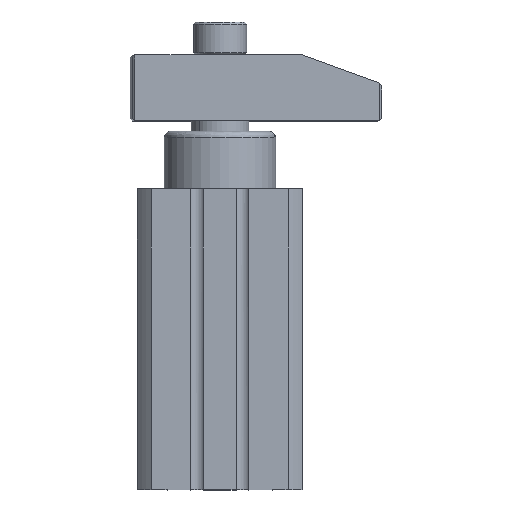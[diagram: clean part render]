
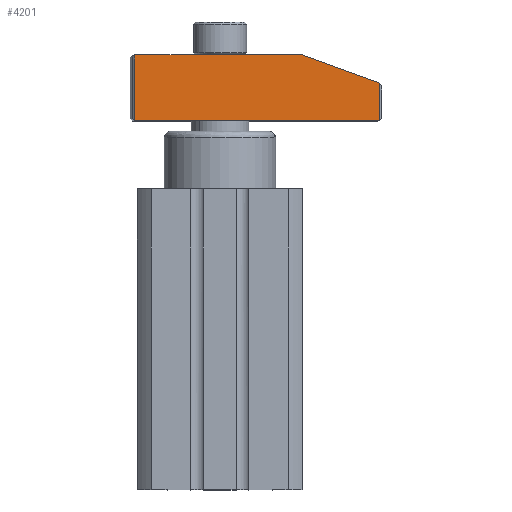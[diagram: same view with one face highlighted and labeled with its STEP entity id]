
A CAD part, top view. The second image highlights one B-rep face of the part: STEP entity #4201.
In plain terms, the highlighted planar face has unit normal (0.04, 0, 0.999) as drawn and (0, 0, -1) by its records, which use the part's own axes.
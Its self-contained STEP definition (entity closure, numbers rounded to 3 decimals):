
#976 = PLANE('',#977);
#977 = AXIS2_PLACEMENT_3D('',#978,#979,#980);
#978 = CARTESIAN_POINT('',(44.713,98.902,16.));
#979 = DIRECTION('',(0.,1.,0.));
#980 = DIRECTION('',(-1.,0.,0.));
#1758 = PLANE('',#1759);
#1759 = AXIS2_PLACEMENT_3D('',#1760,#1761,#1762);
#1760 = CARTESIAN_POINT('',(15.389,108.24,16.));
#1761 = DIRECTION('',(-0.342,0.94,0.));
#1762 = DIRECTION('',(-0.94,-0.342,0.));
#1898 = PLANE('',#1899);
#1899 = AXIS2_PLACEMENT_3D('',#1900,#1901,#1902);
#1900 = CARTESIAN_POINT('',(44.713,114.902,16.));
#1901 = DIRECTION('',(0.,1.,-0.));
#1902 = DIRECTION('',(-1.,0.,0.));
#3361 = PLANE('',#3362);
#3362 = AXIS2_PLACEMENT_3D('',#3363,#3364,#3365);
#3363 = CARTESIAN_POINT('',(74.463,27.672,0.));
#3364 = DIRECTION('',(0.707,0.,-0.707));
#3365 = DIRECTION('',(-0.707,0.,-0.707));
#3475 = VERTEX_POINT('',#3476);
#3476 = CARTESIAN_POINT('',(74.463,114.902,
    0.));
#3573 = PLANE('',#3574);
#3574 = AXIS2_PLACEMENT_3D('',#3575,#3576,#3577);
#3575 = CARTESIAN_POINT('',(14.963,27.672,0.));
#3576 = DIRECTION('',(-0.707,0.,-0.707));
#3577 = DIRECTION('',(-0.707,0.,0.707));
#3819 = VERTEX_POINT('',#3820);
#3820 = CARTESIAN_POINT('',(14.963,98.902,
    0.));
#3940 = VERTEX_POINT('',#3941);
#3941 = CARTESIAN_POINT('',(74.463,98.902,
    0.));
#3987 = EDGE_CURVE('',#3940,#3475,#3988,.T.);
#3988 = SURFACE_CURVE('',#3989,(#3993,#4000),.PCURVE_S1.);
#3989 = LINE('',#3990,#3991);
#3990 = CARTESIAN_POINT('',(74.463,27.672,0.));
#3991 = VECTOR('',#3992,1.);
#3992 = DIRECTION('',(0.,1.,-0.));
#3993 = PCURVE('',#3361,#3994);
#3994 = DEFINITIONAL_REPRESENTATION('',(#3995),#3999);
#3995 = LINE('',#3996,#3997);
#3996 = CARTESIAN_POINT('',(0.,0.));
#3997 = VECTOR('',#3998,1.);
#3998 = DIRECTION('',(0.,1.));
#3999 = ( GEOMETRIC_REPRESENTATION_CONTEXT(2) 
PARAMETRIC_REPRESENTATION_CONTEXT() REPRESENTATION_CONTEXT('2D SPACE',''
  ) );
#4000 = PCURVE('',#4001,#4006);
#4001 = PLANE('',#4002);
#4002 = AXIS2_PLACEMENT_3D('',#4003,#4004,#4005);
#4003 = CARTESIAN_POINT('',(44.713,27.672,0.));
#4004 = DIRECTION('',(-0.,0.,1.));
#4005 = DIRECTION('',(1.,0.,0.));
#4006 = DEFINITIONAL_REPRESENTATION('',(#4007),#4011);
#4007 = LINE('',#4008,#4009);
#4008 = CARTESIAN_POINT('',(29.75,0.));
#4009 = VECTOR('',#4010,1.);
#4010 = DIRECTION('',(0.,1.));
#4011 = ( GEOMETRIC_REPRESENTATION_CONTEXT(2) 
PARAMETRIC_REPRESENTATION_CONTEXT() REPRESENTATION_CONTEXT('2D SPACE',''
  ) );
#4020 = EDGE_CURVE('',#3475,#4021,#4023,.T.);
#4021 = VERTEX_POINT('',#4022);
#4022 = CARTESIAN_POINT('',(33.695,114.902,0.));
#4023 = SURFACE_CURVE('',#4024,(#4028,#4035),.PCURVE_S1.);
#4024 = LINE('',#4025,#4026);
#4025 = CARTESIAN_POINT('',(44.713,114.902,0.));
#4026 = VECTOR('',#4027,1.);
#4027 = DIRECTION('',(-1.,-0.,-0.));
#4028 = PCURVE('',#1898,#4029);
#4029 = DEFINITIONAL_REPRESENTATION('',(#4030),#4034);
#4030 = LINE('',#4031,#4032);
#4031 = CARTESIAN_POINT('',(0.,-16.));
#4032 = VECTOR('',#4033,1.);
#4033 = DIRECTION('',(1.,0.));
#4034 = ( GEOMETRIC_REPRESENTATION_CONTEXT(2) 
PARAMETRIC_REPRESENTATION_CONTEXT() REPRESENTATION_CONTEXT('2D SPACE',''
  ) );
#4035 = PCURVE('',#4001,#4036);
#4036 = DEFINITIONAL_REPRESENTATION('',(#4037),#4041);
#4037 = LINE('',#4038,#4039);
#4038 = CARTESIAN_POINT('',(0.,87.23));
#4039 = VECTOR('',#4040,1.);
#4040 = DIRECTION('',(-1.,0.));
#4041 = ( GEOMETRIC_REPRESENTATION_CONTEXT(2) 
PARAMETRIC_REPRESENTATION_CONTEXT() REPRESENTATION_CONTEXT('2D SPACE',''
  ) );
#4081 = EDGE_CURVE('',#4021,#4082,#4084,.T.);
#4082 = VERTEX_POINT('',#4083);
#4083 = CARTESIAN_POINT('',(14.963,108.084,
    0.));
#4084 = SURFACE_CURVE('',#4085,(#4089,#4096),.PCURVE_S1.);
#4085 = LINE('',#4086,#4087);
#4086 = CARTESIAN_POINT('',(33.695,114.902,0.));
#4087 = VECTOR('',#4088,1.);
#4088 = DIRECTION('',(-0.94,-0.342,0.));
#4089 = PCURVE('',#1758,#4090);
#4090 = DEFINITIONAL_REPRESENTATION('',(#4091),#4095);
#4091 = LINE('',#4092,#4093);
#4092 = CARTESIAN_POINT('',(-19.481,-16.));
#4093 = VECTOR('',#4094,1.);
#4094 = DIRECTION('',(1.,0.));
#4095 = ( GEOMETRIC_REPRESENTATION_CONTEXT(2) 
PARAMETRIC_REPRESENTATION_CONTEXT() REPRESENTATION_CONTEXT('2D SPACE',''
  ) );
#4096 = PCURVE('',#4001,#4097);
#4097 = DEFINITIONAL_REPRESENTATION('',(#4098),#4102);
#4098 = LINE('',#4099,#4100);
#4099 = CARTESIAN_POINT('',(-11.018,87.23));
#4100 = VECTOR('',#4101,1.);
#4101 = DIRECTION('',(-0.94,-0.342));
#4102 = ( GEOMETRIC_REPRESENTATION_CONTEXT(2) 
PARAMETRIC_REPRESENTATION_CONTEXT() REPRESENTATION_CONTEXT('2D SPACE',''
  ) );
#4135 = EDGE_CURVE('',#4082,#3819,#4136,.T.);
#4136 = SURFACE_CURVE('',#4137,(#4141,#4148),.PCURVE_S1.);
#4137 = LINE('',#4138,#4139);
#4138 = CARTESIAN_POINT('',(14.963,27.672,0.));
#4139 = VECTOR('',#4140,1.);
#4140 = DIRECTION('',(-0.,-1.,0.));
#4141 = PCURVE('',#3573,#4142);
#4142 = DEFINITIONAL_REPRESENTATION('',(#4143),#4147);
#4143 = LINE('',#4144,#4145);
#4144 = CARTESIAN_POINT('',(0.,0.));
#4145 = VECTOR('',#4146,1.);
#4146 = DIRECTION('',(0.,-1.));
#4147 = ( GEOMETRIC_REPRESENTATION_CONTEXT(2) 
PARAMETRIC_REPRESENTATION_CONTEXT() REPRESENTATION_CONTEXT('2D SPACE',''
  ) );
#4148 = PCURVE('',#4001,#4149);
#4149 = DEFINITIONAL_REPRESENTATION('',(#4150),#4154);
#4150 = LINE('',#4151,#4152);
#4151 = CARTESIAN_POINT('',(-29.75,0.));
#4152 = VECTOR('',#4153,1.);
#4153 = DIRECTION('',(0.,-1.));
#4154 = ( GEOMETRIC_REPRESENTATION_CONTEXT(2) 
PARAMETRIC_REPRESENTATION_CONTEXT() REPRESENTATION_CONTEXT('2D SPACE',''
  ) );
#4165 = EDGE_CURVE('',#3819,#3940,#4166,.T.);
#4166 = SURFACE_CURVE('',#4167,(#4171,#4178),.PCURVE_S1.);
#4167 = LINE('',#4168,#4169);
#4168 = CARTESIAN_POINT('',(44.713,98.902,0.));
#4169 = VECTOR('',#4170,1.);
#4170 = DIRECTION('',(1.,0.,0.));
#4171 = PCURVE('',#976,#4172);
#4172 = DEFINITIONAL_REPRESENTATION('',(#4173),#4177);
#4173 = LINE('',#4174,#4175);
#4174 = CARTESIAN_POINT('',(0.,-16.));
#4175 = VECTOR('',#4176,1.);
#4176 = DIRECTION('',(-1.,0.));
#4177 = ( GEOMETRIC_REPRESENTATION_CONTEXT(2) 
PARAMETRIC_REPRESENTATION_CONTEXT() REPRESENTATION_CONTEXT('2D SPACE',''
  ) );
#4178 = PCURVE('',#4001,#4179);
#4179 = DEFINITIONAL_REPRESENTATION('',(#4180),#4184);
#4180 = LINE('',#4181,#4182);
#4181 = CARTESIAN_POINT('',(0.,71.23));
#4182 = VECTOR('',#4183,1.);
#4183 = DIRECTION('',(1.,0.));
#4184 = ( GEOMETRIC_REPRESENTATION_CONTEXT(2) 
PARAMETRIC_REPRESENTATION_CONTEXT() REPRESENTATION_CONTEXT('2D SPACE',''
  ) );
#4201 = ADVANCED_FACE('',(#4202),#4001,.F.);
#4202 = FACE_BOUND('',#4203,.T.);
#4203 = EDGE_LOOP('',(#4204,#4205,#4206,#4207,#4208));
#4204 = ORIENTED_EDGE('',*,*,#4135,.F.);
#4205 = ORIENTED_EDGE('',*,*,#4081,.F.);
#4206 = ORIENTED_EDGE('',*,*,#4020,.F.);
#4207 = ORIENTED_EDGE('',*,*,#3987,.F.);
#4208 = ORIENTED_EDGE('',*,*,#4165,.F.);
